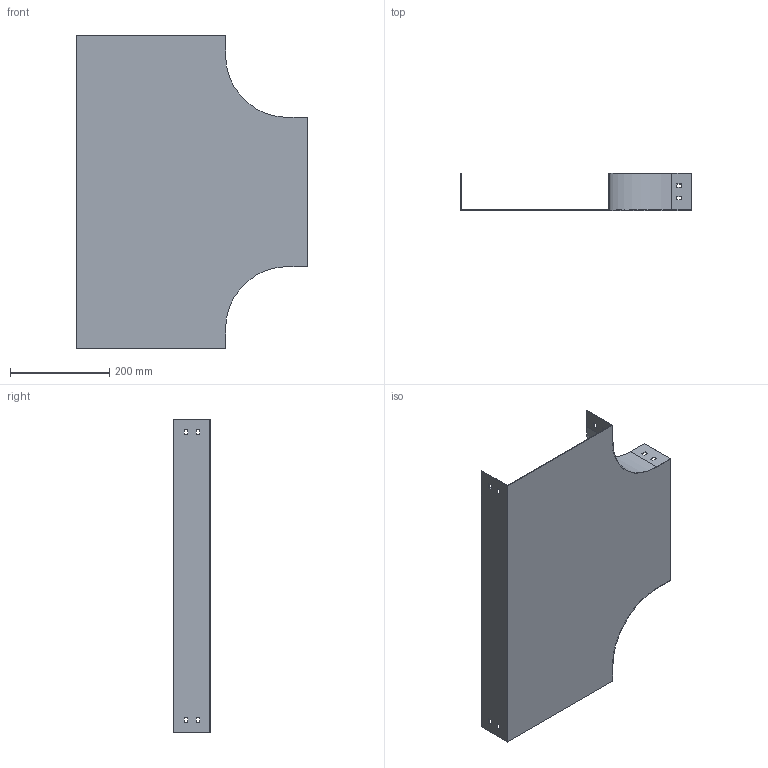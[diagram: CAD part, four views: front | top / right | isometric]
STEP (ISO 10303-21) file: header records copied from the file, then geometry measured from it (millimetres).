
FILE_DESCRIPTION (( 'STEP AP214' ), '1' );
FILE_NAME ('PT_307.step', '2025-07-16T09:23:52', ( '' ), ( '' ), 'SwSTEP 2.0', 'SolidWorks 2023', '' );
FILE_SCHEMA (( 'AUTOMOTIVE_DESIGN' ));
Length unit declared in the file: millimetre
Products named in the file (1): PT_307
Bounding box: 465 x 75 x 630 mm (x, y, z)
Volume: 497201.8 mm3; surface area: 667333.3 mm2
Topology: 1 solids, 1 shells, 70 faces, 204 edges, 136 vertices
Faces by surface type: plane 66, cylinder 4
Entity records: 2347 total; most frequent: CARTESIAN_POINT 411, ORIENTED_EDGE 408, DIRECTION 354, EDGE_CURVE 204, VECTOR 196, LINE 196, VERTEX_POINT 136, EDGE_LOOP 94
